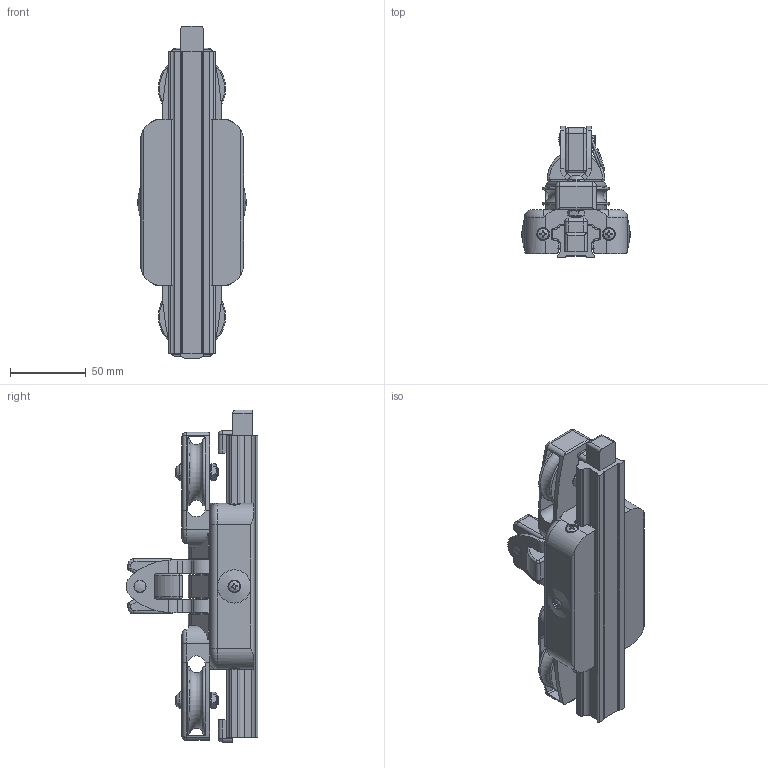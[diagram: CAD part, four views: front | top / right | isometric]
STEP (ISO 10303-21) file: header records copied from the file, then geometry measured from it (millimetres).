
FILE_DESCRIPTION(/* description */ (''),/* implementation_level */ '2;1');
FILE_NAME(/* name */ 'D:\Utenti\lucade\Desktop\4112.stp',/* time_stamp */ '2020-08-06T14:45:30+02:00',/* author */ ('lucade'),/* organization */ (''),/* preprocessor_version */ 'ST-DEVELOPER v18.1',/* originating_system */ 'Autodesk Inventor 2021',/* authorisation */ '');
FILE_SCHEMA (('AUTOMOTIVE_DESIGN { 1 0 10303 214 3 1 1 }'));
Length unit declared in the file: millimetre
Products named in the file (1): 4112
Bounding box: 71.95 x 87.05 x 219.8 mm (x, y, z)
Volume: 387189.9 mm3; surface area: 87453.7 mm2
Topology: 2 solids, 10 shells, 951 faces, 2534 edges, 1579 vertices
Faces by surface type: plane 390, cylinder 316, torus 102, bspline 70, cone 54, sphere 19
Full cylindrical faces by diameter (mm): 2.5 x1, 3.5 x2, 3.6 x2, 6 x3, 6.2 x2, 6.8 x2, 8 x1, 8.2 x3, 8.4 x4, 8.5 x6, 10 x4, 10.5 x12, 11.7 x6, 17 x4, 27.1 x6, 28 x4
Entity records: 33476 total; most frequent: CARTESIAN_POINT 10039, ORIENTED_EDGE 5016, DIRECTION 4994, EDGE_CURVE 2508, AXIS2_PLACEMENT_3D 1984, VERTEX_POINT 1579, LINE 1026, VECTOR 1026
